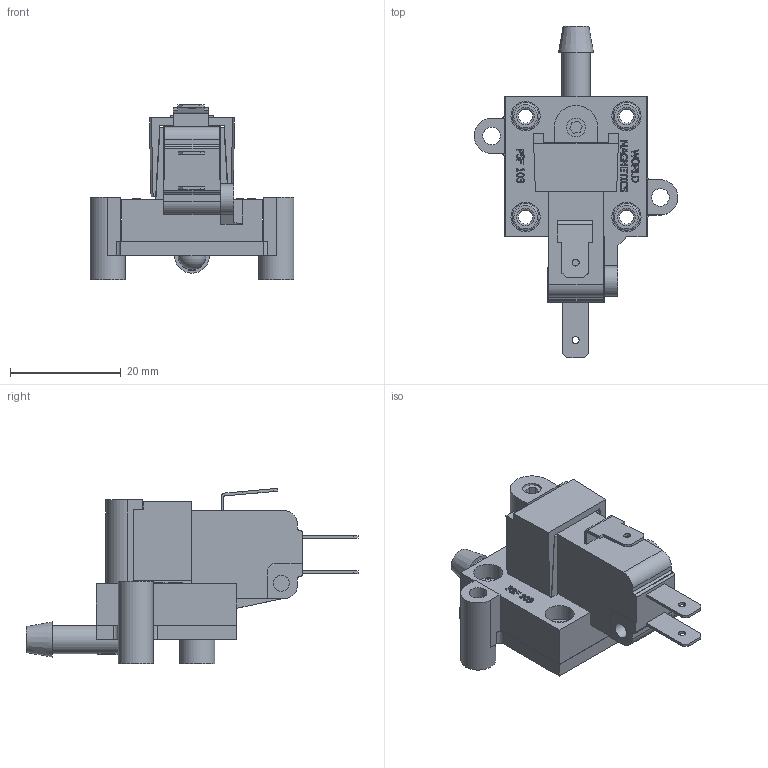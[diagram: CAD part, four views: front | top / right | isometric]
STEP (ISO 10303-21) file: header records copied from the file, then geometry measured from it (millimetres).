
FILE_DESCRIPTION((''),'2;1');
FILE_NAME('G:\DRAWINGS\SWITCH\INVENTOR DRAWINGS\WORLD MAGNETICS SWITCH\WM SALES STP FILES\903X.stp','2011-05-19T12:11:38',('dale'),(''),'Autodesk Inventor 2009','Autodesk Inventor 2009','');
FILE_SCHEMA(('AUTOMOTIVE_DESIGN { 1 0 10303 214 1 1 1 1 }'));
Length unit declared in the file: inch
Products named in the file (7): 903X; 60942-STP; 60836-STP; 60339-STP; 60193; 60016; 60344
Assembly tree (9 placements, depth 2):
  903X
    60942-STP
    60836-STP
    60339-STP
    60193  x4
    60016
    60344
Bounding box: 36.83 x 59.97 x 31.64 mm (x, y, z)
Volume: 12907.3 mm3; surface area: 10792.7 mm2
Topology: 10 solids, 10 shells, 658 faces, 1697 edges, 1118 vertices
Faces by surface type: plane 374, bspline 199, cylinder 65, torus 16, cone 3, sphere 1
Full cylindrical faces by diameter (mm): 1.27 x3, 2.362 x1, 2.565 x4, 2.896 x1, 3.073 x4, 3.372 x1, 4.166 x1, 4.572 x4, 4.826 x4, 5.08 x5, 6.35 x2
Entity records: 26251 total; most frequent: CARTESIAN_POINT 12268, ORIENTED_EDGE 3064, DIRECTION 2227, EDGE_CURVE 1532, VERTEX_POINT 1045, VECTOR 1029, LINE 1029, EDGE_LOOP 733
